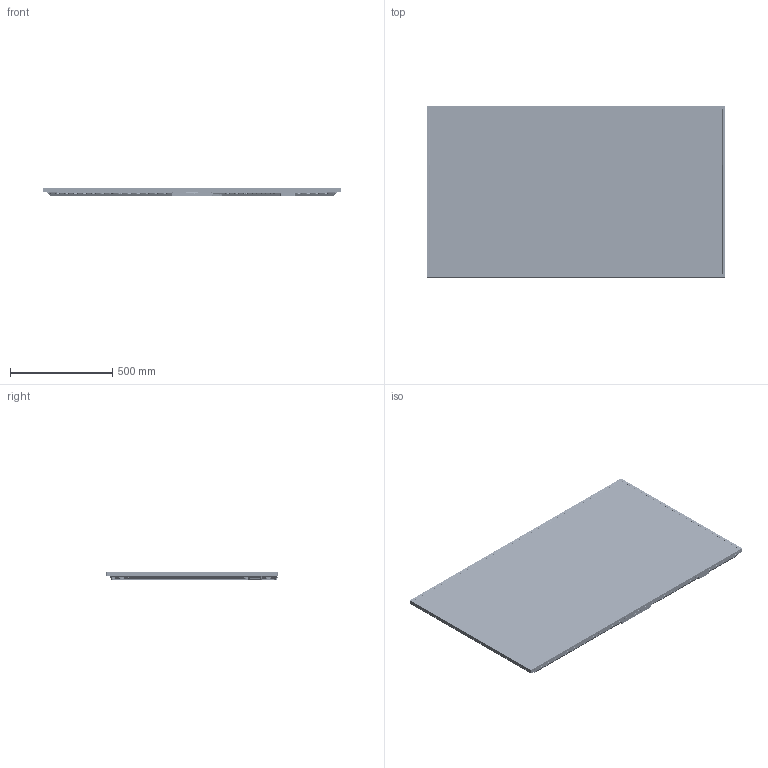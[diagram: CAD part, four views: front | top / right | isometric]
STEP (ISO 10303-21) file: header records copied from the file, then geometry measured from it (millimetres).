
FILE_DESCRIPTION((''),'2;1');
FILE_NAME('00-65W6000_ASM_1_ASM_2_ASM','2023-03-02T',('zhangzhpei'),(''),'CREO PARAMETRIC BY PTC INC, 2014350','CREO PARAMETRIC BY PTC INC, 2014350','');
FILE_SCHEMA(('CONFIG_CONTROL_DESIGN'));
Products named in the file (31): POL_CF_12_2_1_1; OPENCELL_ASM_43_ASM_1_ASM_1_ASM_ASM; OPENCELL_ST6451D02-H_V1_2018091_ASM; OPENCELL_65D02-3-20200410_ASM_1_ASM; PCBA-C_SG6451D02-2_R2_20201104__ASM; 01-65W6000-OC_ASM_1_ASM_1_ASM; 55-660040-0ULG_1_1_2; 55-660040-0ULG_1_ASM_1_ASM; MBACKCOVER-01_1_1; 55-660880_0ULG_1_1; 55_661050-0ULG_1_1; 01-BC_ASM_1_ASM_1_ASM; PCB_BOARD_1_1_1; PCB_MAIN-HDMI-IAF05_19613T1-CGE; PCB_MAIN-USB20_A_HOR_SOCKET-BK_; PCB_MAIN-PHONE_J-TSH3724D3_5_4P; PCB_ASSY_ASM_1_ASM_1_ASM_1_ASM; PCB_ASSY_ASM_ASM_1_ASM_1_ASM; 65DS60_ZK-20221128_2_1_1; 65DS60_ZK-20221128_1_ASM_1_ASM__ASM; 65DS60-20221230__1_1; 65DS60_ZK-20221128_ASM_1_ASM_1_ASM; 01-FC-2_ASM_1_ASM_1_ASM; LENS_56-799810-0HHG_2_1_1_1_1; 43DS_ASM_1_ASM_1_ASM_1_ASM; WD202208060-J-CP-12_7_STP_1__1_; 43DS_ASM_ASM_1_ASM_1_ASM; 67-M66425-1G8_1_1; 01-SHUZHIBIAOPAI_ASM_1_ASM_1_ASM; ST-A03-002G9A-T54-F04F08_1_1; 00-65W6000_ASM_1_ASM_2_ASM
Assembly tree (33 placements, depth 7):
  00-65W6000_ASM_1_ASM_2_ASM
    01-65W6000-OC_ASM_1_ASM_1_ASM
      PCBA-C_SG6451D02-2_R2_20201104__ASM
        OPENCELL_65D02-3-20200410_ASM_1_ASM
          OPENCELL_ST6451D02-H_V1_2018091_ASM
            OPENCELL_ASM_43_ASM_1_ASM_1_ASM_ASM
              POL_CF_12_2_1_1
    01-BC_ASM_1_ASM_1_ASM
      55-660040-0ULG_1_ASM_1_ASM
        55-660040-0ULG_1_1_2
      MBACKCOVER-01_1_1
      55-660880_0ULG_1_1
      55_661050-0ULG_1_1
    01-SHUZHIBIAOPAI_ASM_1_ASM_1_ASM
      PCB_ASSY_ASM_ASM_1_ASM_1_ASM
        PCB_ASSY_ASM_1_ASM_1_ASM_1_ASM
          PCB_BOARD_1_1_1
          PCB_MAIN-HDMI-IAF05_19613T1-CGE  x3
          PCB_MAIN-USB20_A_HOR_SOCKET-BK_  x2
          PCB_MAIN-PHONE_J-TSH3724D3_5_4P
      01-FC-2_ASM_1_ASM_1_ASM
        65DS60_ZK-20221128_ASM_1_ASM_1_ASM
          65DS60_ZK-20221128_1_ASM_1_ASM__ASM
            65DS60_ZK-20221128_2_1_1
          65DS60-20221230__1_1
      43DS_ASM_ASM_1_ASM_1_ASM
        43DS_ASM_1_ASM_1_ASM_1_ASM
          LENS_56-799810-0HHG_2_1_1_1_1
        WD202208060-J-CP-12_7_STP_1__1_
      67-M66425-1G8_1_1
    ST-A03-002G9A-T54-F04F08_1_1
Bounding box: 1459.18 x 837.06 x 38.92 mm (x, y, z)
Volume: 4415357.9 mm3; surface area: 6232386 mm2
Topology: 17 solids, 18 shells, 29832 faces, 83521 edges, 53944 vertices
Faces by surface type: plane 18306, cylinder 6451, bspline 4268, cone 499, torus 281, sphere 26, extrusion 1
Entity records: 1096277 total; most frequent: CARTESIAN_POINT 475490, ORIENTED_EDGE 143886, DIRECTION 104494, EDGE_CURVE 71945, VERTEX_POINT 46573, VECTOR 46312, LINE 46311, AXIS2_PLACEMENT_3D 29091
